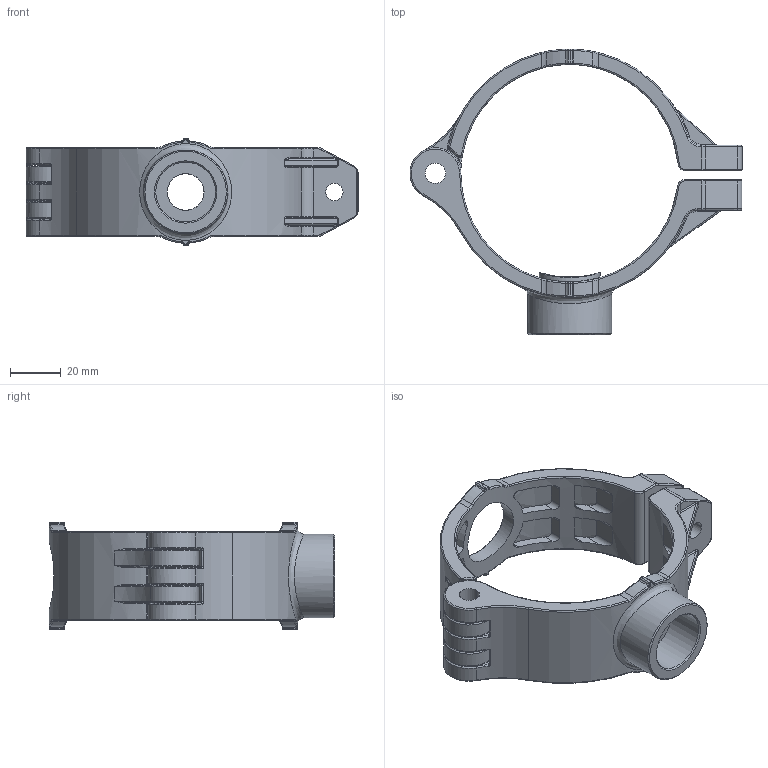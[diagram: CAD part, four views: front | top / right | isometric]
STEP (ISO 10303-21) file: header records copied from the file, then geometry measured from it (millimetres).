
FILE_DESCRIPTION(/* description */ (''),/* implementation_level */ '2;1');
FILE_NAME(/* name */ 'AU19 7199 00.stp',/* time_stamp */ '2025-07-25T14:09:14+08:00',/* author */ (''),/* organization */ (''),/* preprocessor_version */ 'ST-DEVELOPER v11',/* originating_system */ 'SIEMENS PLM Software NX 7.5',/* authorisation */ '');
FILE_SCHEMA (('CONFIG_CONTROL_DESIGN'));
Length unit declared in the file: millimetre
Products named in the file (1): Admi3CF6xyeb
Bounding box: 130.59 x 112.3 x 42.31 mm (x, y, z)
Volume: 73729.2 mm3; surface area: 37718.7 mm2
Topology: 2 solids, 2 shells, 584 faces, 1457 edges, 882 vertices
Faces by surface type: cylinder 249, torus 110, plane 104, bspline 102, sphere 16, cone 3
Full cylindrical faces by diameter (mm): 23.5 x1, 33 x1
Entity records: 25109 total; most frequent: CARTESIAN_POINT 12241, ORIENTED_EDGE 2862, DIRECTION 2490, EDGE_CURVE 1431, AXIS2_PLACEMENT_3D 1032, VERTEX_POINT 879, EDGE_LOOP 630, ADVANCED_FACE 584
